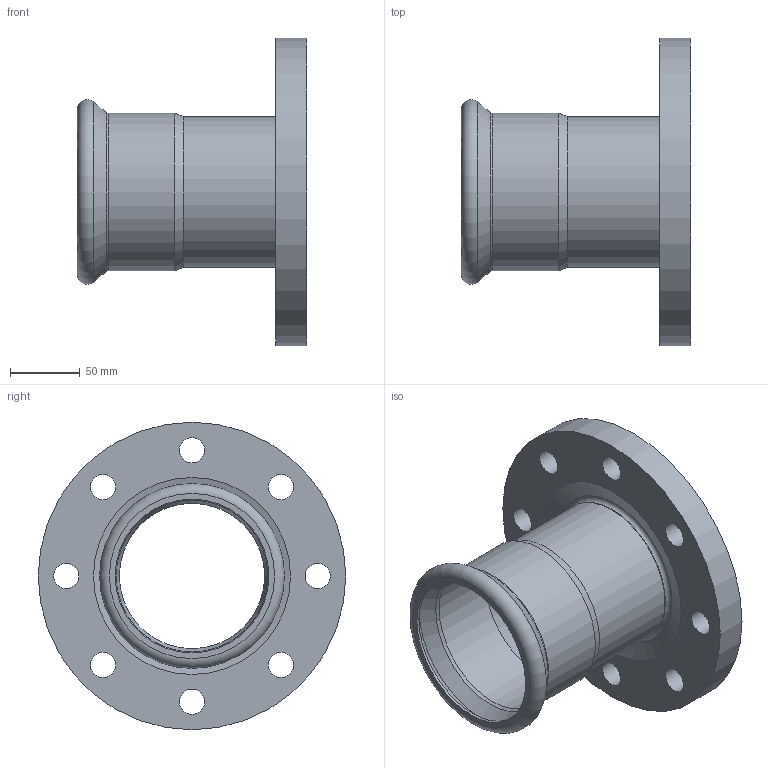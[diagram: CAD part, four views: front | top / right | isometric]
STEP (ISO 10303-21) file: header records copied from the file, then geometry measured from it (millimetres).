
FILE_DESCRIPTION((''),'2;1');
FILE_NAME('G:\Nirosan-Schmiedefeld\Technics\CAD\001 Serie 9.000\108\6VAPF108h(4).stp','2018-09-11T15:40:35',('herberg'),(''),'Autodesk Inventor 2009','Autodesk Inventor 2009','');
FILE_SCHEMA(('AUTOMOTIVE_DESIGN { 1 0 10303 214 1 1 1 1 }'));
Length unit declared in the file: millimetre
Products named in the file (3): 6VAPF108h(4); 69HMF108p(0); 69FL108180p(1)
Assembly tree (2 placements, depth 2):
  6VAPF108h(4)
    69HMF108p(0)
    69FL108180p(1)
Bounding box: 164 x 220 x 220 mm (x, y, z)
Volume: 687655.9 mm3; surface area: 194266.1 mm2
Topology: 2 solids, 2 shells, 33 faces, 69 edges, 42 vertices
Faces by surface type: cylinder 16, plane 6, cone 6, torus 3, bspline 2
Full cylindrical faces by diameter (mm): 18 x8, 104 x2, 108 x2, 108.7 x1, 110 x1, 112.7 x1, 220 x1
Entity records: 946 total; most frequent: CARTESIAN_POINT 208, DIRECTION 154, ORIENTED_EDGE 82, EDGE_LOOP 82, AXIS2_PLACEMENT_3D 77, FACE_BOUND 49, VERTEX_POINT 41, CIRCLE 41
